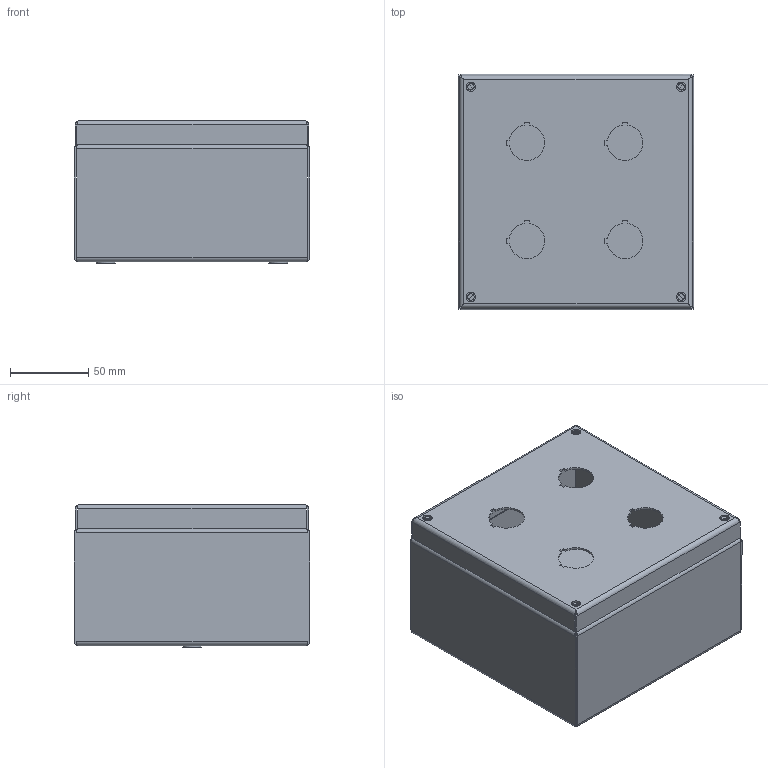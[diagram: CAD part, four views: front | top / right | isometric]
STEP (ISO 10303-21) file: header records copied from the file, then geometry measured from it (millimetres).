
FILE_DESCRIPTION(/* description */ ('www.inoxveneta.it','CAx-IF Rec.Pracs.---Representation and Presentation of Product Manufacturing Information (PMI)---4.0---2014-10-13','CAx-IF Rec.Pracs.---3D Tessellated Geometry---0.4---2014-09-14','2;1'),/* implementation_level */ '2;1');
FILE_NAME(/* name */ 'SCATOLA SCA01501509.4',/* time_stamp */ '2023-02-01T09:36:26+01:00',/* author */ ('Inoxveneta S.p.A '),/* organization */ ('Unknown'),/* preprocessor_version */ 'ST-DEVELOPER v18.102',/* originating_system */ 'Solid Edge',/* authorisation */ 'Unknown');
FILE_SCHEMA (('AP242_MANAGED_MODEL_BASED_3D_ENGINEERING_MIM_LF { 1 0 10303 442 1 1 4 }'));
Length unit declared in the file: millimetre
Products named in the file (12): SCA01501509.4; S000X000.13; S0000000.11; AE00511.01; S0000000.78; S0000000.02; C0000000.08; AE00891.05; S000X000.90; S0000000.86; AE00407.01; S0000000.04
Assembly tree (17 placements, depth 3):
  SCA01501509.4
    S000X000.13
      S0000000.11
      AE00511.01  x4
    S0000000.78  x2
    S0000000.02  x2
    C0000000.08
    AE00891.05  x2
    S000X000.90
      S0000000.86
      AE00407.01
    S0000000.04
Bounding box: 150 x 150 x 91 mm (x, y, z)
Volume: 151438 mm3; surface area: 238660.2 mm2
Topology: 15 solids, 15 shells, 542 faces, 1305 edges, 803 vertices
Faces by surface type: plane 336, cylinder 120, cone 49, bspline 24, torus 13
Full cylindrical faces by diameter (mm): 4.2 x6, 5 x3, 6 x4, 6.5 x1, 6.647 x2, 7 x4, 8 x2, 8.25 x2, 11 x2, 12 x2
Entity records: 12035 total; most frequent: CARTESIAN_POINT 2334, DIRECTION 1840, ORIENTED_EDGE 1776, EDGE_CURVE 888, AXIS2_PLACEMENT_3D 616, LINE 608, VECTOR 608, VERTEX_POINT 558
